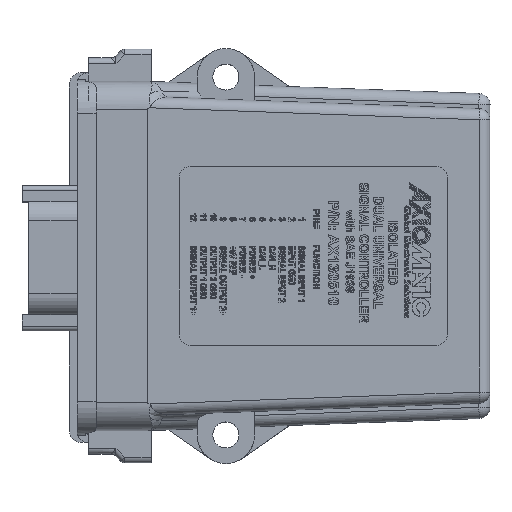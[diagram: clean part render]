
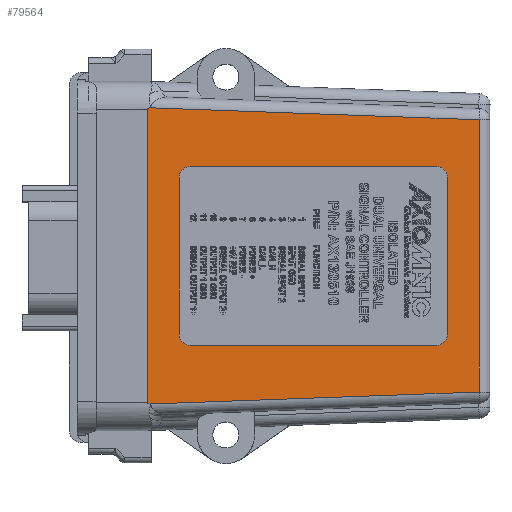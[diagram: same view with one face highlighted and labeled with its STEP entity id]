
A CAD part, top view. The second image highlights one B-rep face of the part: STEP entity #79564.
In plain terms, the highlighted planar face has unit normal (0.019, 0, 1) as drawn and (0, 1, -0.019) by its records, which use the part's own axes.
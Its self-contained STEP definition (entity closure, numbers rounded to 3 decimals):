
#82=ELLIPSE($,#84091,16.587,0.312);
#88=ELLIPSE($,#84104,16.587,0.312);
#634=B_SPLINE_CURVE_WITH_KNOTS($,3,(#111288,#111289,#111290,#111291,#111292,
#111293),.UNSPECIFIED.,.F.,.F.,(4,2,4),(0.426,0.443,
0.445),.UNSPECIFIED.);
#638=B_SPLINE_CURVE_WITH_KNOTS($,3,(#111387,#111388,#111389,#111390,#111391,
#111392,#111393),.UNSPECIFIED.,.F.,.F.,(4,3,4),(-0.001,0.,
0.011),.UNSPECIFIED.);
#7833=FACE_BOUND($,#14182,.T.);
#7834=FACE_BOUND($,#14183,.T.);
#8608=CIRCLE($,#83715,0.125);
#8610=CIRCLE($,#83719,0.125);
#8612=CIRCLE($,#83723,0.125);
#8614=CIRCLE($,#83727,0.125);
#14182=EDGE_LOOP($,(#58999,#59000,#59001,#59002,#59003,#59004,#59005,#59006));
#14183=EDGE_LOOP($,(#59007,#59008,#59009,#59010,#59011,#59012,#59013,#59014));
#18979=LINE($,#108214,#27347);
#18983=LINE($,#108226,#27351);
#18987=LINE($,#108238,#27355);
#18990=LINE($,#108247,#27358);
#19631=LINE($,#111383,#27999);
#19632=LINE($,#111395,#28000);
#19633=LINE($,#111397,#28001);
#19634=LINE($,#111398,#28002);
#27347=VECTOR($,#89729,2.75);
#27351=VECTOR($,#89741,1.75);
#27355=VECTOR($,#89753,2.75);
#27358=VECTOR($,#89764,1.75);
#27999=VECTOR($,#91155,3.28);
#28000=VECTOR($,#91158,3.673);
#28001=VECTOR($,#91159,3.044);
#28002=VECTOR($,#91160,3.673);
#35749=VERTEX_POINT($,#108204);
#35750=VERTEX_POINT($,#108206);
#35752=VERTEX_POINT($,#108212);
#35754=VERTEX_POINT($,#108218);
#35756=VERTEX_POINT($,#108224);
#35758=VERTEX_POINT($,#108230);
#35760=VERTEX_POINT($,#108236);
#35762=VERTEX_POINT($,#108242);
#36357=VERTEX_POINT($,#111264);
#36358=VERTEX_POINT($,#111287);
#36360=VERTEX_POINT($,#111299);
#36374=VERTEX_POINT($,#111382);
#36375=VERTEX_POINT($,#111384);
#36376=VERTEX_POINT($,#111386);
#36377=VERTEX_POINT($,#111394);
#36378=VERTEX_POINT($,#111396);
#43900=EDGE_CURVE($,#35750,#35749,#8608,.T.);
#43904=EDGE_CURVE($,#35749,#35752,#18979,.T.);
#43907=EDGE_CURVE($,#35752,#35754,#8610,.T.);
#43910=EDGE_CURVE($,#35754,#35756,#18983,.T.);
#43913=EDGE_CURVE($,#35756,#35758,#8612,.T.);
#43916=EDGE_CURVE($,#35758,#35760,#18987,.T.);
#43919=EDGE_CURVE($,#35760,#35762,#8614,.T.);
#43921=EDGE_CURVE($,#35762,#35750,#18990,.T.);
#44820=EDGE_CURVE($,#36358,#36357,#634,.F.);
#44825=EDGE_CURVE($,#36360,#36357,#82,.T.);
#44843=EDGE_CURVE($,#36360,#36374,#19631,.T.);
#44844=EDGE_CURVE($,#36375,#36374,#88,.T.);
#44845=EDGE_CURVE($,#36376,#36375,#638,.T.);
#44846=EDGE_CURVE($,#36377,#36376,#19632,.T.);
#44847=EDGE_CURVE($,#36378,#36377,#19633,.T.);
#44848=EDGE_CURVE($,#36358,#36378,#19634,.T.);
#58999=ORIENTED_EDGE($,*,*,#43900,.T.);
#59000=ORIENTED_EDGE($,*,*,#43904,.T.);
#59001=ORIENTED_EDGE($,*,*,#43907,.T.);
#59002=ORIENTED_EDGE($,*,*,#43910,.T.);
#59003=ORIENTED_EDGE($,*,*,#43913,.T.);
#59004=ORIENTED_EDGE($,*,*,#43916,.T.);
#59005=ORIENTED_EDGE($,*,*,#43919,.T.);
#59006=ORIENTED_EDGE($,*,*,#43921,.T.);
#59007=ORIENTED_EDGE($,*,*,#44825,.F.);
#59008=ORIENTED_EDGE($,*,*,#44843,.T.);
#59009=ORIENTED_EDGE($,*,*,#44844,.F.);
#59010=ORIENTED_EDGE($,*,*,#44845,.F.);
#59011=ORIENTED_EDGE($,*,*,#44846,.F.);
#59012=ORIENTED_EDGE($,*,*,#44847,.F.);
#59013=ORIENTED_EDGE($,*,*,#44848,.F.);
#59014=ORIENTED_EDGE($,*,*,#44820,.T.);
#76286=PLANE($,#84103);
#79564=ADVANCED_FACE($,(#7833,#7834),#76286,.F.);
#83715=AXIS2_PLACEMENT_3D($,#108207,#89722,#89723);
#83719=AXIS2_PLACEMENT_3D($,#108220,#89735,#89736);
#83723=AXIS2_PLACEMENT_3D($,#108232,#89747,#89748);
#83727=AXIS2_PLACEMENT_3D($,#108244,#89759,#89760);
#84091=AXIS2_PLACEMENT_3D($,#111301,#91122,#91123);
#84103=AXIS2_PLACEMENT_3D($,#111381,#91153,#91154);
#84104=AXIS2_PLACEMENT_3D($,#111385,#91156,#91157);
#89722=DIRECTION('center_axis',(0.,-1.,0.019));
#89723=DIRECTION('ref_axis',(-1.,0.,0.));
#89729=DIRECTION($,(0.,0.019,1.));
#89735=DIRECTION('center_axis',(0.,-1.,0.019));
#89736=DIRECTION('ref_axis',(0.,-0.019,
-1.));
#89741=DIRECTION($,(-1.,0.,0.));
#89747=DIRECTION('center_axis',(0.,-1.,0.019));
#89748=DIRECTION('ref_axis',(1.,0.,0.));
#89753=DIRECTION($,(0.,-0.019,-1.));
#89759=DIRECTION('center_axis',(0.,-1.,0.019));
#89760=DIRECTION('ref_axis',(0.,0.019,
1.));
#89764=DIRECTION($,(1.,0.,0.));
#91122=DIRECTION('center_axis',(0.,-1.,0.019));
#91123=DIRECTION('ref_axis',(0.,0.019,1.));
#91153=DIRECTION('center_axis',(0.,-1.,0.019));
#91154=DIRECTION('ref_axis',(0.,-0.019,-1.));
#91155=DIRECTION($,(1.,0.,0.));
#91156=DIRECTION('center_axis',(0.,-1.,0.019));
#91157=DIRECTION('ref_axis',(0.,0.019,
1.));
#91158=DIRECTION($,(0.036,0.019,0.999));
#91159=DIRECTION($,(1.,0.,0.));
#91160=DIRECTION($,(0.036,-0.019,-0.999));
#108204=CARTESIAN_POINT('',(1.,0.574,-3.888));
#108206=CARTESIAN_POINT('',(0.875,0.572,-4.013));
#108207=CARTESIAN_POINT('Origin',(0.875,0.574,-3.888));
#108212=CARTESIAN_POINT('',(1.,0.626,-1.138));
#108214=CARTESIAN_POINT($,(1.,0.569,-4.188));
#108218=CARTESIAN_POINT('',(0.875,0.628,-1.013));
#108220=CARTESIAN_POINT('Origin',(0.875,0.626,-1.138));
#108224=CARTESIAN_POINT('',(-0.875,0.628,-1.013));
#108226=CARTESIAN_POINT($,(0.438,0.628,-1.013));
#108230=CARTESIAN_POINT('',(-1.,0.626,-1.138));
#108232=CARTESIAN_POINT('Origin',(-0.875,0.626,
-1.138));
#108236=CARTESIAN_POINT('',(-1.,0.574,-3.888));
#108238=CARTESIAN_POINT($,(-1.,0.595,-2.813));
#108242=CARTESIAN_POINT('',(-0.875,0.572,-4.013));
#108244=CARTESIAN_POINT('Origin',(-0.875,0.574,-3.888));
#108247=CARTESIAN_POINT($,(-0.438,0.572,-4.013));
#111264=CARTESIAN_POINT('',(-1.659,0.634,-0.693));
#111287=CARTESIAN_POINT('',(-1.656,0.634,-0.696));
#111288=CARTESIAN_POINT('Ctrl Pts',(-1.659,0.634,
-0.693));
#111289=CARTESIAN_POINT('Ctrl Pts',(-1.658,0.634,
-0.694));
#111290=CARTESIAN_POINT('Ctrl Pts',(-1.657,0.634,
-0.695));
#111291=CARTESIAN_POINT('Ctrl Pts',(-1.656,0.634,
-0.696));
#111292=CARTESIAN_POINT('Ctrl Pts',(-1.656,0.634,
-0.696));
#111293=CARTESIAN_POINT('Ctrl Pts',(-1.656,0.634,
-0.696));
#111299=CARTESIAN_POINT('',(-1.64,0.635,-0.661));
#111301=CARTESIAN_POINT('Origin',(-1.64,0.323,-17.245));
#111381=CARTESIAN_POINT('Origin',(0.,0.563,-4.488));
#111382=CARTESIAN_POINT('',(1.64,0.635,-0.661));
#111383=CARTESIAN_POINT($,(-0.976,0.635,-0.661));
#111384=CARTESIAN_POINT('',(1.659,0.634,-0.693));
#111385=CARTESIAN_POINT('Origin',(1.64,0.323,-17.245));
#111386=CARTESIAN_POINT('',(1.656,0.634,-0.696));
#111387=CARTESIAN_POINT('Ctrl Pts',(1.656,0.634,
-0.696));
#111388=CARTESIAN_POINT('Ctrl Pts',(1.656,0.634,
-0.696));
#111389=CARTESIAN_POINT('Ctrl Pts',(1.656,0.634,
-0.696));
#111390=CARTESIAN_POINT('Ctrl Pts',(1.656,0.634,
-0.696));
#111391=CARTESIAN_POINT('Ctrl Pts',(1.657,0.634,
-0.695));
#111392=CARTESIAN_POINT('Ctrl Pts',(1.658,0.634,
-0.694));
#111393=CARTESIAN_POINT('Ctrl Pts',(1.659,0.634,
-0.693));
#111394=CARTESIAN_POINT('',(1.522,0.565,-4.365));
#111395=CARTESIAN_POINT($,(1.55,0.58,-3.592));
#111396=CARTESIAN_POINT('',(-1.522,0.565,-4.365));
#111397=CARTESIAN_POINT($,(0.,0.565,-4.365));
#111398=CARTESIAN_POINT($,(-1.55,0.58,-3.592));
